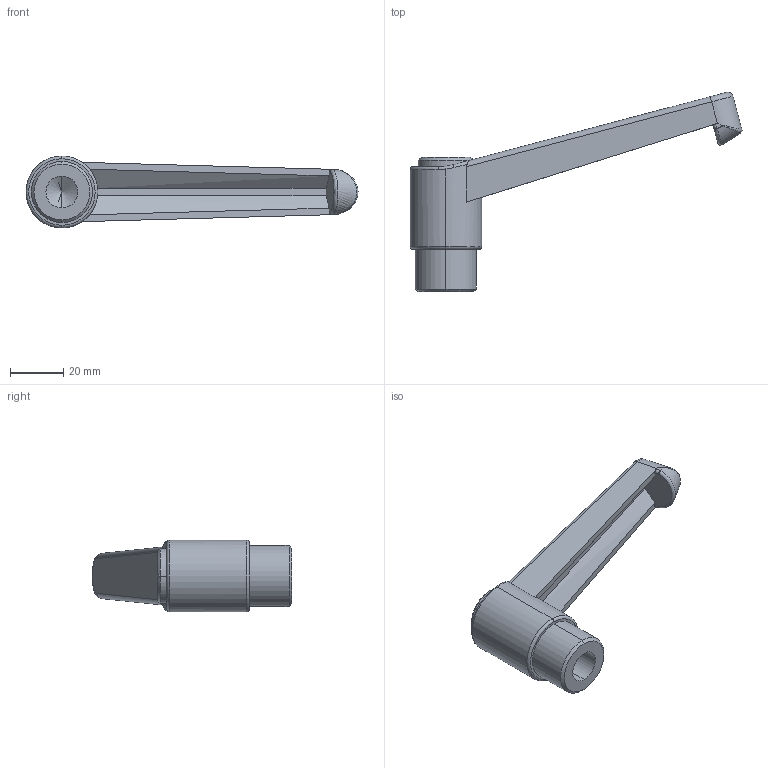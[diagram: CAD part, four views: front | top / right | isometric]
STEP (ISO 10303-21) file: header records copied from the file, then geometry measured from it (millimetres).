
FILE_DESCRIPTION (( 'STEP AP203' ), '1' );
FILE_NAME ('A-403-108-M14.STEP', '2015-11-21T17:55:06', ( '' ), ( '' ), 'SwSTEP 2.0', 'SolidWorks 2014', '' );
FILE_SCHEMA (( 'CONFIG_CONTROL_DESIGN' ));
Length unit declared in the file: millimetre
Products named in the file (1): A-403-108-M14
Bounding box: 124.91 x 75.05 x 27 mm (x, y, z)
Volume: 43320.2 mm3; surface area: 13407.4 mm2
Topology: 1 solids, 1 shells, 58 faces, 139 edges, 84 vertices
Faces by surface type: cylinder 16, plane 16, bspline 13, cone 6, torus 4, sphere 3
Entity records: 2428 total; most frequent: CARTESIAN_POINT 1133, ORIENTED_EDGE 274, DIRECTION 231, EDGE_CURVE 137, AXIS2_PLACEMENT_3D 96, VERTEX_POINT 84, EDGE_LOOP 61, FACE_OUTER_BOUND 58
